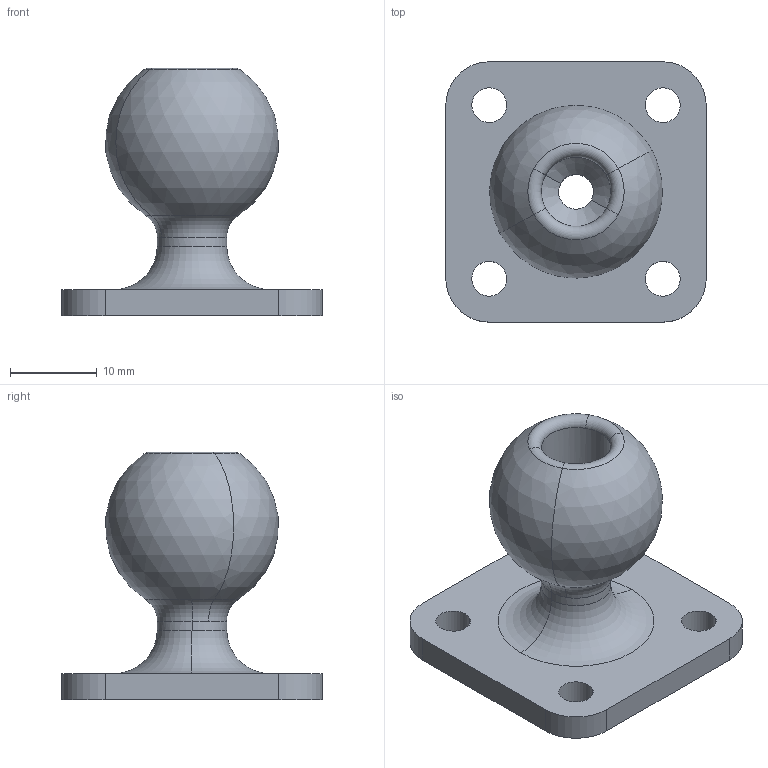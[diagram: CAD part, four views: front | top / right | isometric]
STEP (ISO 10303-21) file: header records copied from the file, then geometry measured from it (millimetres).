
FILE_DESCRIPTION((''),'2;1');
FILE_NAME('Male.stp','2015-12-03T18:19:20+00:00',('none'),('none'),'','','none');
FILE_SCHEMA((''));
Length unit declared in the file: millimetre
Products named in the file (1): Male
Bounding box: 30 x 30 x 28.48 mm (x, y, z)
Volume: 6257.5 mm3; surface area: 3917.4 mm2
Topology: 1 solids, 1 shells, 38 faces, 94 edges, 58 vertices
Faces by surface type: cylinder 18, torus 10, plane 6, cone 2, sphere 2
Entity records: 1107 total; most frequent: ORIENTED_EDGE 188, CARTESIAN_POINT 183, DIRECTION 154, EDGE_CURVE 94, AXIS2_PLACEMENT_3D 93, CIRCLE 62, VERTEX_POINT 58, EDGE_LOOP 48
